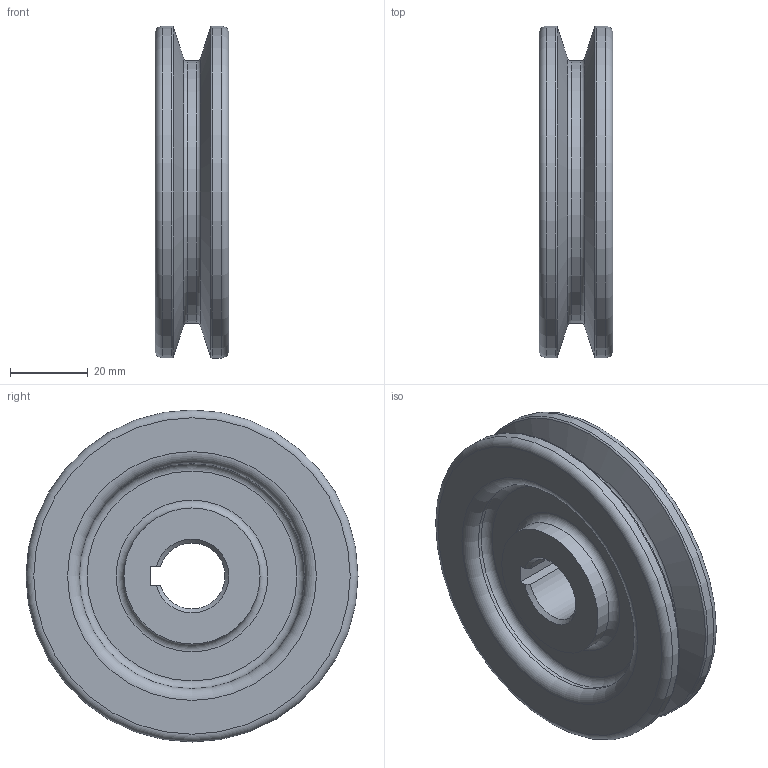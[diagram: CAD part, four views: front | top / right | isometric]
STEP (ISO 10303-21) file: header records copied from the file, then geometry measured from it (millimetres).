
FILE_DESCRIPTION(/* description */ (''),/* implementation_level */ '2;1');
FILE_NAME(/* name */ 'Z:\1116_기계캐드마스터\최관우\381118E1004 - V벨트풀리.stp',/* time_stamp */ '2018-11-16T15:57:44+09:00',/* author */ ('User'),/* organization */ (''),/* preprocessor_version */ 'ST-DEVELOPER v17',/* originating_system */ 'Autodesk Inventor 2018',/* authorisation */ '');
FILE_SCHEMA (('AUTOMOTIVE_DESIGN { 1 0 10303 214 3 1 1 }'));
Length unit declared in the file: millimetre
Products named in the file (1): 부품6
Bounding box: 19 x 85.4 x 85.4 mm (x, y, z)
Volume: 68431.5 mm3; surface area: 21830.6 mm2
Topology: 1 solids, 1 shells, 33 faces, 107 edges, 80 vertices
Faces by surface type: torus 12, plane 9, cylinder 8, cone 4
Full cylindrical faces by diameter (mm): 35 x2, 58 x2, 67.4 x1, 85.4 x2
Entity records: 1312 total; most frequent: DIRECTION 255, CARTESIAN_POINT 229, ORIENTED_EDGE 214, AXIS2_PLACEMENT_3D 118, EDGE_CURVE 107, CIRCLE 84, VERTEX_POINT 80, EDGE_LOOP 39
